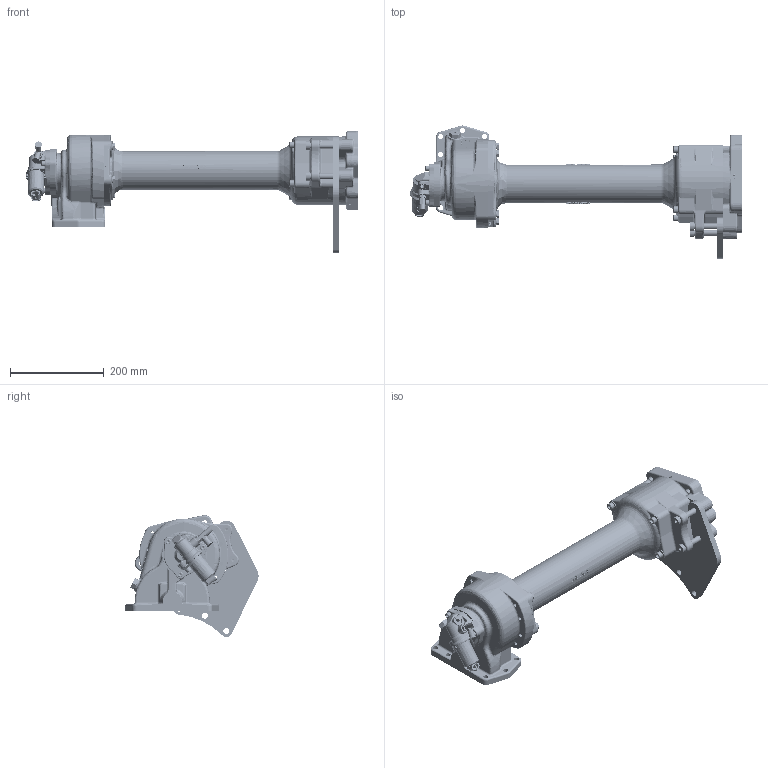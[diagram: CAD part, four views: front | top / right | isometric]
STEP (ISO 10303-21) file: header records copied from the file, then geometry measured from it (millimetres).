
FILE_DESCRIPTION((''),'2;1');
FILE_NAME('C:\Documents and Settings\vca7782\Desktop\890T-B5XS.stp','2013-07-18T14:08:00',('vca7724'),(''),'Autodesk Inventor 2013','Autodesk Inventor 2013','');
FILE_SCHEMA(('AUTOMOTIVE_DESIGN { 1 0 10303 214 1 1 1 1 }'));
Length unit declared in the file: inch
Products named in the file (54): Assembly55; 890T-B5XS; 1-P-629; 54-P-22; 329607X.iam (Nopart parts supressed); 3-P-1007; 380070; 28-P-285_compressed; 380051; 380110X; 380110; 500566-7; 28-P-178_compressed; 329678X; 2-P-858; 379485; 380065; 37-P-62 compressed-0; 561028; 380069; 379231; 329609-1X; 21-P-717; 561018; 379919; 2-P-867; 379668; 28-p-278; 329463-12X.iam (LevelofDetail2); 34-P-143; 378811; 378849; 28-P-119; 378447-4; 380012; 500897-5; 28-P-245_compressed; 22-P-112; 379242; 378447-6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
Assembly tree (97 placements, depth 5):
  Assembly55
    890T-B5XS
      1-P-629
      54-P-22
      329607X.iam (Nopart parts supressed)
        3-P-1007
        380070
        28-P-285_compressed  x2
        380051
        380110X
          380110
          500566-7
        28-P-178_compressed
        329678X
          2-P-858
          379485  x11
          380065  x10
        37-P-62 compressed-0
        561028
        380069
        379231
      329609-1X
        21-P-717
        561018
        379919
        2-P-867
        379668
        28-p-278
        379231  x2
      329463-12X.iam (LevelofDetail2)
        34-P-143
        378811
        378849
        28-P-119
        378447-4
        380012
        500897-5
      28-P-245_compressed  x2
      22-P-112
      379242
      379231
      378447-6  x3
      560972
      28-P-42
      378452-7
      550026
      379668
      68-P-51
      378422  x2
      500897-5
      378431-13  x4
      379433-18  x4
      380076-07  x8
      379659
      379564-2  x2
      380071  x2
      380123
    50-P-67
Bounding box: 708.52 x 284.26 x 259.99 mm (x, y, z)
Volume: 5846444.4 mm3; surface area: 1498331.6 mm2
Topology: 93 solids, 94 shells, 21992 faces, 59360 edges, 37870 vertices
Faces by surface type: cylinder 8390, plane 7264, torus 2893, bspline 2756, cone 609, sphere 75, revolution 5
Full cylindrical faces by diameter (mm): 0.66 x1, 0.8 x1, 1.473 x2, 1.6 x1, 1.969 x2, 1.981 x3, 2.184 x2, 2.388 x1, 2.464 x2, 2.54 x2, 2.794 x2, 2.858 x2, 3.175 x13, 3.811 x24, 3.962 x1, 4.369 x2, 4.699 x3, 4.75 x1, 4.775 x2, 4.978 x1, 6.35 x2, 6.401 x3, 6.756 x1, 7.62 x1, 7.798 x14, 7.836 x3, 7.925 x4, 7.938 x1, 7.95 x4, 8.331 x1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
Entity records: 457906 total; most frequent: CARTESIAN_POINT 184017, ORIENTED_EDGE 58606, DIRECTION 49867, EDGE_CURVE 29303, VERTEX_POINT 18808, AXIS2_PLACEMENT_3D 17687, VECTOR 14490, LINE 14490
